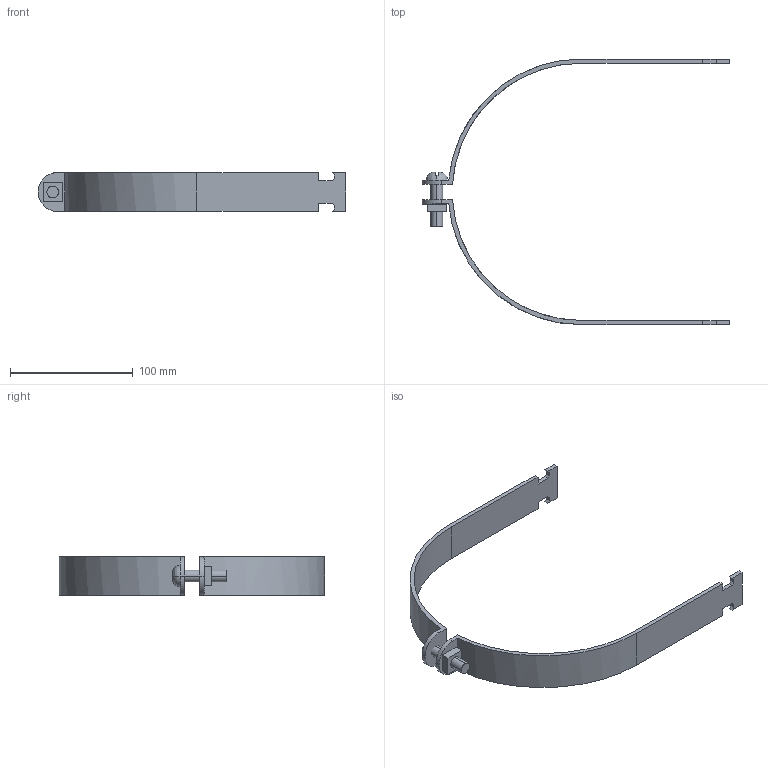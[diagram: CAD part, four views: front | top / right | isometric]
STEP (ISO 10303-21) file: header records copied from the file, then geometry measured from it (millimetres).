
FILE_DESCRIPTION(('TurboCAD Mac Pro'),'Build 980');
FILE_NAME('P2070-82.stp',' ',(''),(''),'ACIS Interop','IMSI','TurboCAD Mac Pro BY IMSI, INCORPORATED');
FILE_SCHEMA(('automotive_design'));
Length unit declared in the file: inch
Products named in the file (5): 1; 2; 3; 4; 5
Bounding box: 250.82 x 216.61 x 31.75 mm (x, y, z)
Volume: 68801.5 mm3; surface area: 44988.9 mm2
Topology: 4 solids, 4 shells, 71 faces, 186 edges, 124 vertices
Faces by surface type: plane 51, bspline 20
Entity records: 4433 total; most frequent: CARTESIAN_POINT 1066, ORIENTED_EDGE 372, STYLED_ITEM 277, PRESENTATION_STYLE_ASSIGNMENT 277, COLOUR_RGB 277, DIRECTION 258, CURVE_STYLE 202, DRAUGHTING_PRE_DEFINED_CURVE_FONT 202
